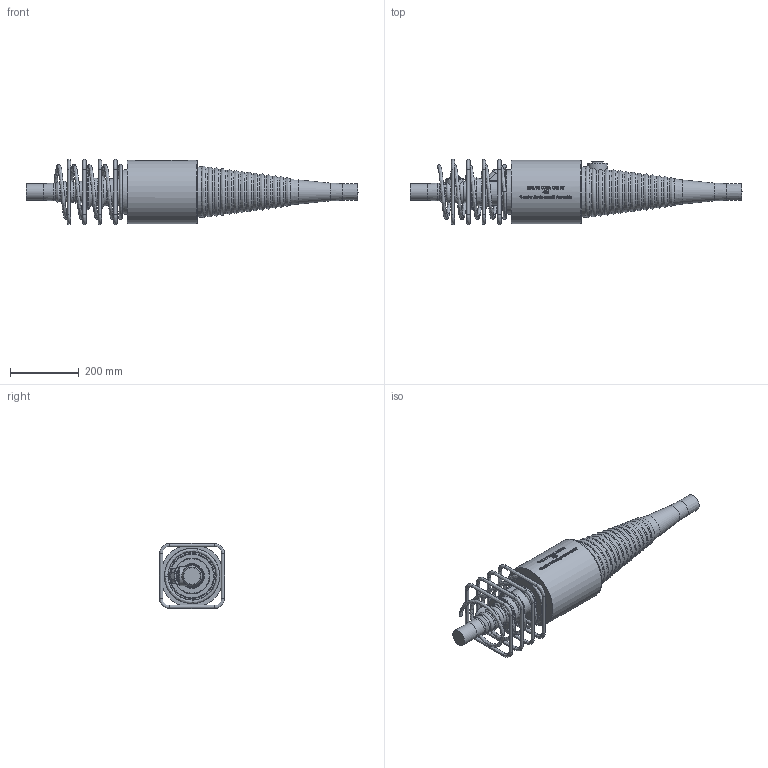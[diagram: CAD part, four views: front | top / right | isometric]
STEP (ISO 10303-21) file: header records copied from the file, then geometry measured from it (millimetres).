
FILE_DESCRIPTION(/* description */ (''),/* implementation_level */ '2;1');
FILE_NAME(/* name */ 'Z:\04 Publications\05 Give-out\BBR\6_3D_Models\BBR VT CONA CMI\BBR VT CONA CMI BT\00406\BBR VT CONA CMI BT 406_Coupler H Assembly_CS-34,28.stp',/* time_stamp */ '2017-05-04T16:18:01+02:00',/* author */ ('IP'),/* organization */ (''),/* preprocessor_version */ 'ST-DEVELOPER v16.1',/* originating_system */ 'Autodesk Inventor 2016',/* authorisation */ '');
FILE_SCHEMA (('AUTOMOTIVE_DESIGN { 1 0 10303 214 3 1 1 }'));
Length unit declared in the file: millimetre
Products named in the file (1): BBR VT CONA CMI BT 406_Coupler H Assembly_CS-34,28
Bounding box: 965.07 x 190 x 190 mm (x, y, z)
Volume: 10630276.5 mm3; surface area: 541408.2 mm2
Topology: 6 solids, 6 shells, 915 faces, 2344 edges, 1497 vertices
Faces by surface type: bspline 377, plane 303, cylinder 98, torus 96, cone 29, sphere 12
Full cylindrical faces by diameter (mm): 10 x16, 32 x1, 34.158 x1, 49 x1, 55 x1, 57 x1, 104 x2, 130 x1, 185 x1
Entity records: 36605 total; most frequent: CARTESIAN_POINT 16799, ORIENTED_EDGE 4416, DIRECTION 3097, EDGE_CURVE 2208, VERTEX_POINT 1486, EDGE_LOOP 1104, AXIS2_PLACEMENT_3D 1101, FACE_OUTER_BOUND 915
